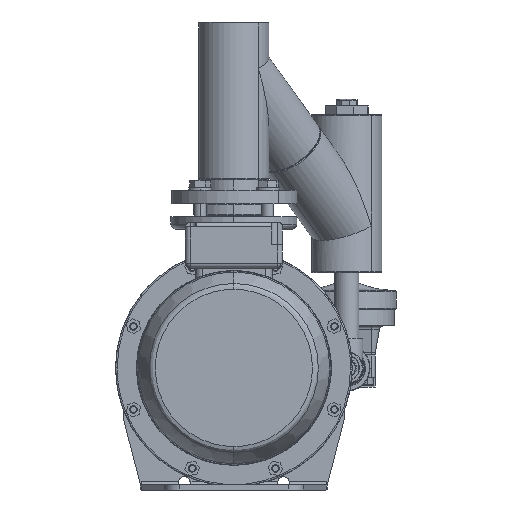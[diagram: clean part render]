
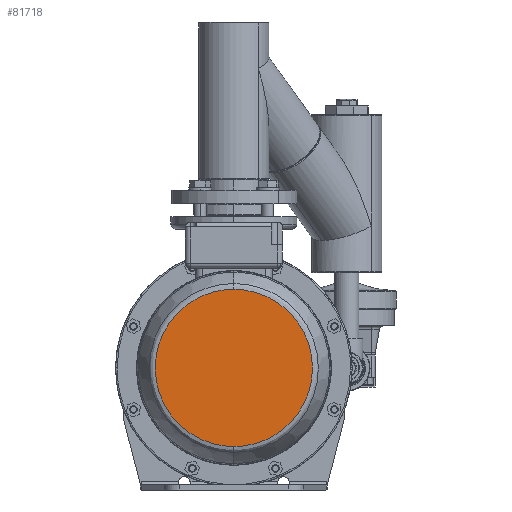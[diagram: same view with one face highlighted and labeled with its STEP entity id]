
A CAD part, front view. The second image highlights one B-rep face of the part: STEP entity #81718.
In plain terms, the highlighted planar face has unit normal (0, -1, 0).
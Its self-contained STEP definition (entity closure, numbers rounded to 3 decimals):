
#60098 = VERTEX_POINT ( 'NONE', #104600 ) ;
#61483 = VERTEX_POINT ( 'NONE', #105390 ) ;
#61566 = EDGE_CURVE ( 'NONE', #60098, #61483, #105741, .T. ) ;
#68629 = CARTESIAN_POINT ( 'NONE',  ( -154.478, -770.387, -78.019 ) ) ;
#68630 = CARTESIAN_POINT ( 'NONE',  ( 51.56, -770.387, -78.019 ) ) ;
#68631 = CARTESIAN_POINT ( 'NONE',  ( 51.56, -770.387, 128.019 ) ) ;
#68632 = CARTESIAN_POINT ( 'NONE',  ( -154.478, -770.387, 128.019 ) ) ;
#68636 =( BOUNDED_CURVE ( )  B_SPLINE_CURVE ( 3, ( #68632, #68631, #68630, #68629 ),
 .UNSPECIFIED., .F., .T. ) 
 B_SPLINE_CURVE_WITH_KNOTS ( ( 4, 4 ),
 ( 0., 1. ),
 .UNSPECIFIED. ) 
 CURVE ( )  GEOMETRIC_REPRESENTATION_ITEM ( )  RATIONAL_B_SPLINE_CURVE ( ( 1., 0.333, 0.333, 1. ) ) 
 REPRESENTATION_ITEM ( '' )  );
#68654 = CARTESIAN_POINT ( 'NONE',  ( -154.478, -770.387, 25. ) ) ;
#68695 = DIRECTION ( 'NONE',  ( 1., 0., 0. ) ) ;
#68697 = DIRECTION ( 'NONE',  ( 0., -1., 0. ) ) ;
#68706 = PLANE ( 'NONE',  #68710 ) ;
#68707 = FACE_OUTER_BOUND ( 'NONE', #81624, .T. ) ;
#68710 = AXIS2_PLACEMENT_3D ( 'NONE', #68654, #68697, #68695 ) ;
#81624 = EDGE_LOOP ( 'NONE', ( #81643, #81655 ) ) ;
#81643 = ORIENTED_EDGE ( 'NONE', *, *, #61566, .F. ) ;
#81649 = EDGE_CURVE ( 'NONE', #61483, #60098, #68636, .T. ) ;
#81655 = ORIENTED_EDGE ( 'NONE', *, *, #81649, .F. ) ;
#81718 = ADVANCED_FACE ( 'NONE', ( #68707 ), #68706, .T. ) ;
#104600 = CARTESIAN_POINT ( 'NONE',  ( -154.478, -770.387, -78.019 ) ) ;
#105390 = CARTESIAN_POINT ( 'NONE',  ( -154.478, -770.387, 128.019 ) ) ;
#105734 = CARTESIAN_POINT ( 'NONE',  ( -154.478, -770.387, 128.019 ) ) ;
#105736 = CARTESIAN_POINT ( 'NONE',  ( -360.517, -770.387, 128.019 ) ) ;
#105737 = CARTESIAN_POINT ( 'NONE',  ( -360.517, -770.387, -78.019 ) ) ;
#105738 = CARTESIAN_POINT ( 'NONE',  ( -154.478, -770.387, -78.019 ) ) ;
#105741 =( BOUNDED_CURVE ( )  B_SPLINE_CURVE ( 3, ( #105738, #105737, #105736, #105734 ),
 .UNSPECIFIED., .F., .T. ) 
 B_SPLINE_CURVE_WITH_KNOTS ( ( 4, 4 ),
 ( 0., 1. ),
 .UNSPECIFIED. ) 
 CURVE ( )  GEOMETRIC_REPRESENTATION_ITEM ( )  RATIONAL_B_SPLINE_CURVE ( ( 1., 0.333, 0.333, 1. ) ) 
 REPRESENTATION_ITEM ( '' )  );
